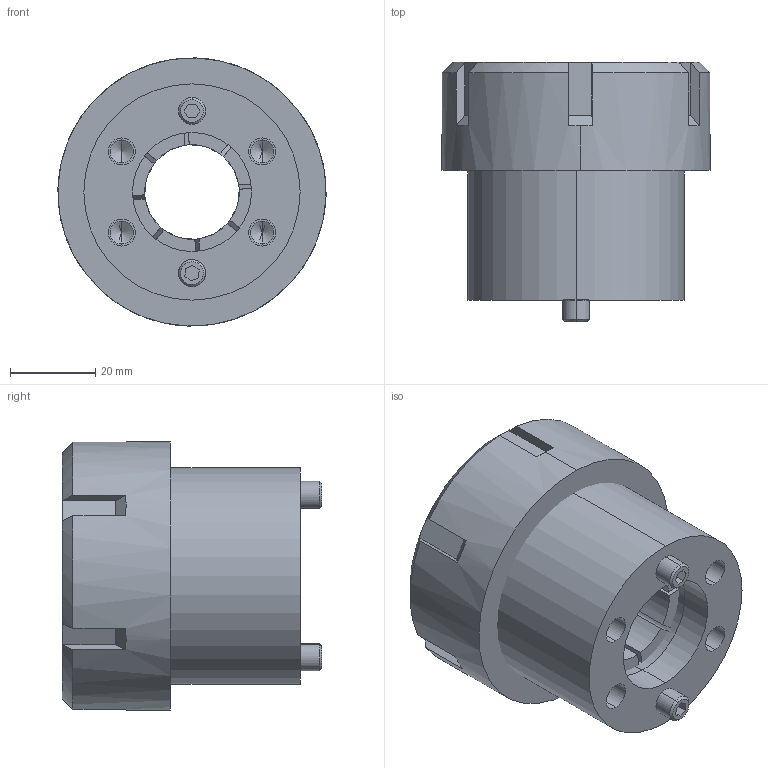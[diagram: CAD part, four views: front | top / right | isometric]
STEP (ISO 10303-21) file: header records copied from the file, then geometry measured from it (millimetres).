
FILE_DESCRIPTION (( 'STEP AP214' ), '1' );
FILE_NAME ('CER40.STEP', '2018-01-26T17:50:36', ( '' ), ( '' ), 'SwSTEP 2.0', 'SolidWorks 2017', '' );
FILE_SCHEMA (( 'AUTOMOTIVE_DESIGN' ));
Length unit declared in the file: inch
Products named in the file (5): CER40; ER40 COLLET_1"; LP250_NO THREADS ; CER40-2; CER40-1_CER40
Assembly tree (5 placements, depth 2):
  CER40
    CER40-1_CER40
    CER40-2
    LP250_NO THREADS   x2
    ER40 COLLET_1"
Bounding box: 62.96 x 60.96 x 62.96 mm (x, y, z)
Volume: 111175.2 mm3; surface area: 49691.4 mm2
Topology: 5 solids, 5 shells, 569 faces, 1487 edges, 971 vertices
Faces by surface type: plane 335, bspline 90, cylinder 71, cone 61, torus 12
Entity records: 24988 total; most frequent: CARTESIAN_POINT 9038, ORIENTED_EDGE 2838, DIRECTION 2230, EDGE_CURVE 1419, VERTEX_POINT 937, VECTOR 848, LINE 848, AXIS2_PLACEMENT_3D 691
